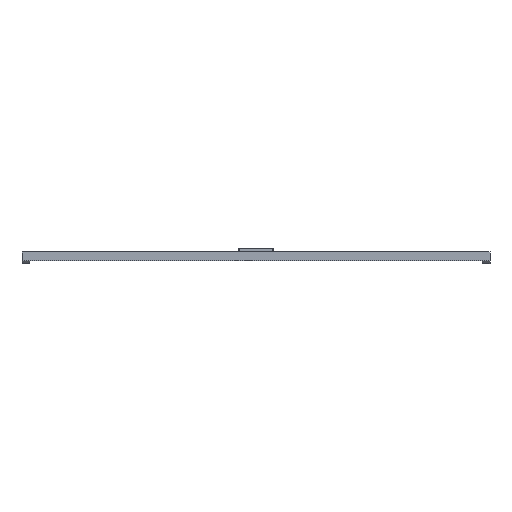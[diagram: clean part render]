
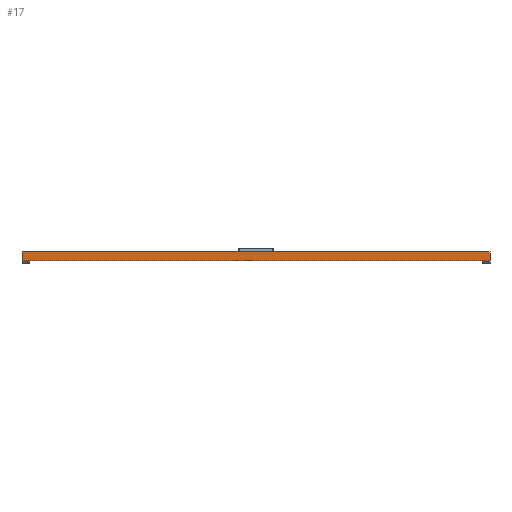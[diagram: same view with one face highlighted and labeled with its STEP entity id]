
A CAD part, left-side view. The second image highlights one B-rep face of the part: STEP entity #17.
In plain terms, the highlighted planar face has unit normal (-1, 0, 0).
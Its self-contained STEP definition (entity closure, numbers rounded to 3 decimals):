
#17 = ADVANCED_FACE('',(#18),#32,.F.);
#18 = FACE_BOUND('',#19,.F.);
#19 = EDGE_LOOP('',(#20,#55,#83,#111));
#20 = ORIENTED_EDGE('',*,*,#21,.F.);
#21 = EDGE_CURVE('',#22,#24,#26,.T.);
#22 = VERTEX_POINT('',#23);
#23 = CARTESIAN_POINT('',(0.,0.,0.));
#24 = VERTEX_POINT('',#25);
#25 = CARTESIAN_POINT('',(0.,0.,2.));
#26 = SURFACE_CURVE('',#27,(#31,#43),.PCURVE_S1.);
#27 = LINE('',#28,#29);
#28 = CARTESIAN_POINT('',(0.,0.,0.));
#29 = VECTOR('',#30,1.);
#30 = DIRECTION('',(0.,0.,1.));
#31 = PCURVE('',#32,#37);
#32 = PLANE('',#33);
#33 = AXIS2_PLACEMENT_3D('',#34,#35,#36);
#34 = CARTESIAN_POINT('',(0.,0.,0.));
#35 = DIRECTION('',(1.,0.,-0.));
#36 = DIRECTION('',(0.,0.,1.));
#37 = DEFINITIONAL_REPRESENTATION('',(#38),#42);
#38 = LINE('',#39,#40);
#39 = CARTESIAN_POINT('',(0.,0.));
#40 = VECTOR('',#41,1.);
#41 = DIRECTION('',(1.,0.));
#42 = ( GEOMETRIC_REPRESENTATION_CONTEXT(2) 
PARAMETRIC_REPRESENTATION_CONTEXT() REPRESENTATION_CONTEXT('2D SPACE',''
  ) );
#43 = PCURVE('',#44,#49);
#44 = PLANE('',#45);
#45 = AXIS2_PLACEMENT_3D('',#46,#47,#48);
#46 = CARTESIAN_POINT('',(0.,0.,0.));
#47 = DIRECTION('',(-0.,1.,0.));
#48 = DIRECTION('',(0.,0.,1.));
#49 = DEFINITIONAL_REPRESENTATION('',(#50),#54);
#50 = LINE('',#51,#52);
#51 = CARTESIAN_POINT('',(0.,0.));
#52 = VECTOR('',#53,1.);
#53 = DIRECTION('',(1.,0.));
#54 = ( GEOMETRIC_REPRESENTATION_CONTEXT(2) 
PARAMETRIC_REPRESENTATION_CONTEXT() REPRESENTATION_CONTEXT('2D SPACE',''
  ) );
#55 = ORIENTED_EDGE('',*,*,#56,.T.);
#56 = EDGE_CURVE('',#22,#57,#59,.T.);
#57 = VERTEX_POINT('',#58);
#58 = CARTESIAN_POINT('',(0.,104.7,0.));
#59 = SURFACE_CURVE('',#60,(#64,#71),.PCURVE_S1.);
#60 = LINE('',#61,#62);
#61 = CARTESIAN_POINT('',(0.,0.,0.));
#62 = VECTOR('',#63,1.);
#63 = DIRECTION('',(-0.,1.,0.));
#64 = PCURVE('',#32,#65);
#65 = DEFINITIONAL_REPRESENTATION('',(#66),#70);
#66 = LINE('',#67,#68);
#67 = CARTESIAN_POINT('',(0.,0.));
#68 = VECTOR('',#69,1.);
#69 = DIRECTION('',(0.,-1.));
#70 = ( GEOMETRIC_REPRESENTATION_CONTEXT(2) 
PARAMETRIC_REPRESENTATION_CONTEXT() REPRESENTATION_CONTEXT('2D SPACE',''
  ) );
#71 = PCURVE('',#72,#77);
#72 = PLANE('',#73);
#73 = AXIS2_PLACEMENT_3D('',#74,#75,#76);
#74 = CARTESIAN_POINT('',(0.,0.,0.));
#75 = DIRECTION('',(0.,0.,1.));
#76 = DIRECTION('',(1.,0.,-0.));
#77 = DEFINITIONAL_REPRESENTATION('',(#78),#82);
#78 = LINE('',#79,#80);
#79 = CARTESIAN_POINT('',(0.,0.));
#80 = VECTOR('',#81,1.);
#81 = DIRECTION('',(0.,1.));
#82 = ( GEOMETRIC_REPRESENTATION_CONTEXT(2) 
PARAMETRIC_REPRESENTATION_CONTEXT() REPRESENTATION_CONTEXT('2D SPACE',''
  ) );
#83 = ORIENTED_EDGE('',*,*,#84,.T.);
#84 = EDGE_CURVE('',#57,#85,#87,.T.);
#85 = VERTEX_POINT('',#86);
#86 = CARTESIAN_POINT('',(0.,104.7,2.));
#87 = SURFACE_CURVE('',#88,(#92,#99),.PCURVE_S1.);
#88 = LINE('',#89,#90);
#89 = CARTESIAN_POINT('',(0.,104.7,0.));
#90 = VECTOR('',#91,1.);
#91 = DIRECTION('',(0.,0.,1.));
#92 = PCURVE('',#32,#93);
#93 = DEFINITIONAL_REPRESENTATION('',(#94),#98);
#94 = LINE('',#95,#96);
#95 = CARTESIAN_POINT('',(0.,-104.7));
#96 = VECTOR('',#97,1.);
#97 = DIRECTION('',(1.,0.));
#98 = ( GEOMETRIC_REPRESENTATION_CONTEXT(2) 
PARAMETRIC_REPRESENTATION_CONTEXT() REPRESENTATION_CONTEXT('2D SPACE',''
  ) );
#99 = PCURVE('',#100,#105);
#100 = PLANE('',#101);
#101 = AXIS2_PLACEMENT_3D('',#102,#103,#104);
#102 = CARTESIAN_POINT('',(0.,104.7,0.));
#103 = DIRECTION('',(-0.,1.,0.));
#104 = DIRECTION('',(0.,0.,1.));
#105 = DEFINITIONAL_REPRESENTATION('',(#106),#110);
#106 = LINE('',#107,#108);
#107 = CARTESIAN_POINT('',(0.,0.));
#108 = VECTOR('',#109,1.);
#109 = DIRECTION('',(1.,0.));
#110 = ( GEOMETRIC_REPRESENTATION_CONTEXT(2) 
PARAMETRIC_REPRESENTATION_CONTEXT() REPRESENTATION_CONTEXT('2D SPACE',''
  ) );
#111 = ORIENTED_EDGE('',*,*,#112,.F.);
#112 = EDGE_CURVE('',#24,#85,#113,.T.);
#113 = SURFACE_CURVE('',#114,(#118,#125),.PCURVE_S1.);
#114 = LINE('',#115,#116);
#115 = CARTESIAN_POINT('',(0.,0.,2.));
#116 = VECTOR('',#117,1.);
#117 = DIRECTION('',(-0.,1.,0.));
#118 = PCURVE('',#32,#119);
#119 = DEFINITIONAL_REPRESENTATION('',(#120),#124);
#120 = LINE('',#121,#122);
#121 = CARTESIAN_POINT('',(2.,0.));
#122 = VECTOR('',#123,1.);
#123 = DIRECTION('',(0.,-1.));
#124 = ( GEOMETRIC_REPRESENTATION_CONTEXT(2) 
PARAMETRIC_REPRESENTATION_CONTEXT() REPRESENTATION_CONTEXT('2D SPACE',''
  ) );
#125 = PCURVE('',#126,#131);
#126 = PLANE('',#127);
#127 = AXIS2_PLACEMENT_3D('',#128,#129,#130);
#128 = CARTESIAN_POINT('',(0.,0.,2.));
#129 = DIRECTION('',(0.,0.,1.));
#130 = DIRECTION('',(1.,0.,-0.));
#131 = DEFINITIONAL_REPRESENTATION('',(#132),#136);
#132 = LINE('',#133,#134);
#133 = CARTESIAN_POINT('',(0.,0.));
#134 = VECTOR('',#135,1.);
#135 = DIRECTION('',(0.,1.));
#136 = ( GEOMETRIC_REPRESENTATION_CONTEXT(2) 
PARAMETRIC_REPRESENTATION_CONTEXT() REPRESENTATION_CONTEXT('2D SPACE',''
  ) );
